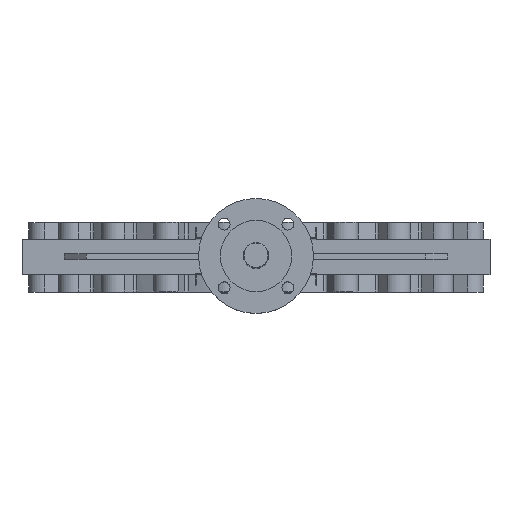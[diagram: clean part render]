
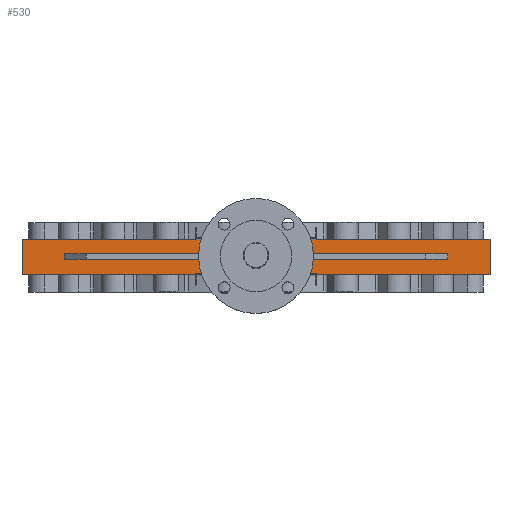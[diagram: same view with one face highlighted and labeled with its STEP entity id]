
A CAD part, top view. The second image highlights one B-rep face of the part: STEP entity #530.
In plain terms, the highlighted planar face has unit normal (0, 0, 1).
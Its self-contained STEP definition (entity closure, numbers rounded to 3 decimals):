
#530=ADVANCED_FACE('',(#3515,#3517),#3519,.T.);
#3515=FACE_BOUND('',#3516,.T.);
#3516=EDGE_LOOP('',(#6025,#6026,#6027,#6028,#6029,#6030,#6031,#6032,#6033,#6034,
#6035,#6036));
#3517=FACE_BOUND('',#3518,.T.);
#3518=EDGE_LOOP('',(#6037,#6038,#6039,#6040));
#3519=PLANE('',#3520);
#3520=AXIS2_PLACEMENT_3D('',#3521,#3522,#3523);
#3521=CARTESIAN_POINT('',(-427.5,-32.5,527.5));
#3522=DIRECTION('',(0.,0.,1.));
#3523=DIRECTION('',(1.,0.,0.));
#6025=ORIENTED_EDGE('',*,*,#7616,.T.);
#6026=ORIENTED_EDGE('',*,*,#7649,.T.);
#6027=ORIENTED_EDGE('',*,*,#7648,.T.);
#6028=ORIENTED_EDGE('',*,*,#7646,.T.);
#6029=ORIENTED_EDGE('',*,*,#7643,.F.);
#6030=ORIENTED_EDGE('',*,*,#7641,.T.);
#6031=ORIENTED_EDGE('',*,*,#7609,.T.);
#6032=ORIENTED_EDGE('',*,*,#7636,.T.);
#6033=ORIENTED_EDGE('',*,*,#7635,.F.);
#6034=ORIENTED_EDGE('',*,*,#7632,.F.);
#6035=ORIENTED_EDGE('',*,*,#7630,.T.);
#6036=ORIENTED_EDGE('',*,*,#7627,.T.);
#6037=ORIENTED_EDGE('',*,*,#7659,.T.);
#6038=ORIENTED_EDGE('',*,*,#7660,.T.);
#6039=ORIENTED_EDGE('',*,*,#7661,.T.);
#6040=ORIENTED_EDGE('',*,*,#7662,.T.);
#7609=EDGE_CURVE('',#8577,#8578,#8579,.T.);
#7616=EDGE_CURVE('',#8588,#8589,#8590,.F.);
#7627=EDGE_CURVE('',#8608,#8588,#8609,.F.);
#7630=EDGE_CURVE('',#8612,#8608,#8613,.T.);
#7632=EDGE_CURVE('',#8612,#8615,#8616,.T.);
#7635=EDGE_CURVE('',#8615,#8618,#8620,.T.);
#7636=EDGE_CURVE('',#8578,#8618,#8621,.T.);
#7641=EDGE_CURVE('',#8626,#8577,#8627,.T.);
#7643=EDGE_CURVE('',#8626,#8629,#8630,.T.);
#7646=EDGE_CURVE('',#8632,#8629,#8634,.T.);
#7648=EDGE_CURVE('',#8635,#8632,#8637,.T.);
#7649=EDGE_CURVE('',#8589,#8635,#8638,.F.);
#7659=EDGE_CURVE('',#8652,#8653,#8654,.F.);
#7660=EDGE_CURVE('',#8653,#8655,#8656,.T.);
#7661=EDGE_CURVE('',#8655,#8657,#8658,.T.);
#7662=EDGE_CURVE('',#8657,#8652,#8659,.F.);
#8577=VERTEX_POINT('',#10321);
#8578=VERTEX_POINT('',#10322);
#8579=LINE('',#10323,#10324);
#8588=VERTEX_POINT('',#10347);
#8589=VERTEX_POINT('',#10348);
#8590=LINE('',#10349,#10350);
#8608=VERTEX_POINT('',#10394);
#8609=LINE('',#10395,#10396);
#8612=VERTEX_POINT('',#10404);
#8613=LINE('',#10405,#10406);
#8615=VERTEX_POINT('',#10411);
#8616=LINE('',#10412,#10413);
#8618=VERTEX_POINT('',#10418);
#8620=LINE('',#10422,#10423);
#8621=LINE('',#10425,#10426);
#8626=VERTEX_POINT('',#10440);
#8627=LINE('',#10441,#10442);
#8629=VERTEX_POINT('',#10447);
#8630=LINE('',#10448,#10449);
#8632=VERTEX_POINT('',#10454);
#8634=LINE('',#10458,#10459);
#8635=VERTEX_POINT('',#10461);
#8637=LINE('',#10465,#10466);
#8638=LINE('',#10468,#10469);
#8652=VERTEX_POINT('',#10502);
#8653=VERTEX_POINT('',#10503);
#8654=LINE('',#10504,#10505);
#8655=VERTEX_POINT('',#10507);
#8656=LINE('',#10508,#10509);
#8657=VERTEX_POINT('',#10511);
#8658=LINE('',#10512,#10513);
#8659=LINE('',#10515,#10516);
#10321=CARTESIAN_POINT('',(110.,32.,527.5));
#10322=CARTESIAN_POINT('',(-110.,32.,527.5));
#10323=CARTESIAN_POINT('',(110.,32.,527.5));
#10324=VECTOR('',#10325,1.);
#10325=DIRECTION('',(-1.,0.,0.));
#10347=CARTESIAN_POINT('',(-110.,-32.,527.5));
#10348=CARTESIAN_POINT('',(110.,-32.,527.5));
#10349=CARTESIAN_POINT('',(110.,-32.,527.5));
#10350=VECTOR('',#10351,1.);
#10351=DIRECTION('',(-1.,0.,0.));
#10394=CARTESIAN_POINT('',(-110.,-32.5,527.5));
#10395=CARTESIAN_POINT('',(-110.,-32.,527.5));
#10396=VECTOR('',#10397,1.);
#10397=DIRECTION('',(0.,-1.,0.));
#10404=CARTESIAN_POINT('',(-427.5,-32.5,527.5));
#10405=CARTESIAN_POINT('',(-427.5,-32.5,527.5));
#10406=VECTOR('',#10407,1.);
#10407=DIRECTION('',(1.,0.,0.));
#10411=CARTESIAN_POINT('',(-427.5,32.5,527.5));
#10412=CARTESIAN_POINT('',(-427.5,-32.5,527.5));
#10413=VECTOR('',#10414,1.);
#10414=DIRECTION('',(0.,1.,0.));
#10418=CARTESIAN_POINT('',(-110.,32.5,527.5));
#10422=CARTESIAN_POINT('',(-427.5,32.5,527.5));
#10423=VECTOR('',#10424,1.);
#10424=DIRECTION('',(1.,0.,0.));
#10425=CARTESIAN_POINT('',(-110.,32.,527.5));
#10426=VECTOR('',#10427,1.);
#10427=DIRECTION('',(0.,1.,0.));
#10440=CARTESIAN_POINT('',(110.,32.5,527.5));
#10441=CARTESIAN_POINT('',(110.,32.5,527.5));
#10442=VECTOR('',#10443,1.);
#10443=DIRECTION('',(0.,-1.,0.));
#10447=CARTESIAN_POINT('',(427.5,32.5,527.5));
#10448=CARTESIAN_POINT('',(110.,32.5,527.5));
#10449=VECTOR('',#10450,1.);
#10450=DIRECTION('',(1.,0.,0.));
#10454=CARTESIAN_POINT('',(427.5,-32.5,527.5));
#10458=CARTESIAN_POINT('',(427.5,-32.5,527.5));
#10459=VECTOR('',#10460,1.);
#10460=DIRECTION('',(0.,1.,0.));
#10461=CARTESIAN_POINT('',(110.,-32.5,527.5));
#10465=CARTESIAN_POINT('',(110.,-32.5,527.5));
#10466=VECTOR('',#10467,1.);
#10467=DIRECTION('',(1.,0.,0.));
#10468=CARTESIAN_POINT('',(110.,-32.5,527.5));
#10469=VECTOR('',#10470,1.);
#10470=DIRECTION('',(0.,1.,0.));
#10502=CARTESIAN_POINT('',(-285.471,5.,527.5));
#10503=CARTESIAN_POINT('',(285.471,5.,527.5));
#10504=CARTESIAN_POINT('',(285.471,5.,527.5));
#10505=VECTOR('',#10506,1.);
#10506=DIRECTION('',(-1.,0.,0.));
#10507=CARTESIAN_POINT('',(285.471,-5.,527.5));
#10508=CARTESIAN_POINT('',(285.471,5.,527.5));
#10509=VECTOR('',#10510,1.);
#10510=DIRECTION('',(0.,-1.,0.));
#10511=CARTESIAN_POINT('',(-285.471,-5.,527.5));
#10512=CARTESIAN_POINT('',(285.471,-5.,527.5));
#10513=VECTOR('',#10514,1.);
#10514=DIRECTION('',(-1.,0.,0.));
#10515=CARTESIAN_POINT('',(-285.471,5.,527.5));
#10516=VECTOR('',#10517,1.);
#10517=DIRECTION('',(0.,-1.,0.));
